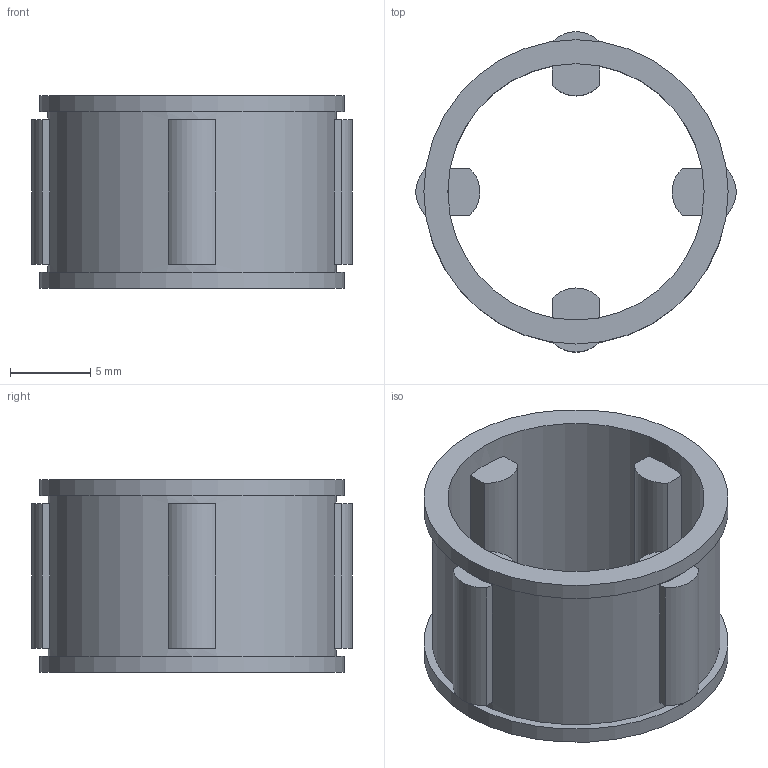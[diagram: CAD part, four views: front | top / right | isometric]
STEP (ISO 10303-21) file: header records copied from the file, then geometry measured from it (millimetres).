
FILE_DESCRIPTION(/* description */ (''),/* implementation_level */ '2;1');
FILE_NAME(/* name */ '306041 FE 420 Z.stp',/* time_stamp */ '2016-11-03T09:55:09+01:00',/* author */ (''),/* organization */ (''),/* preprocessor_version */ 'ST-DEVELOPER v15',/* originating_system */ 'SIEMENS PLM Software NX 8.5',/* authorisation */ '');
FILE_SCHEMA (('CONFIG_CONTROL_DESIGN'));
Length unit declared in the file: millimetre
Products named in the file (1): ATE0000080_01
Bounding box: 20 x 20 x 12 mm (x, y, z)
Volume: 974.1 mm3; surface area: 1719.3 mm2
Topology: 1 solids, 1 shells, 48 faces, 114 edges, 76 vertices
Faces by surface type: plane 36, cylinder 12
Full cylindrical faces by diameter (mm): 16 x1, 18 x1, 19 x2
Entity records: 1420 total; most frequent: DIRECTION 242, CARTESIAN_POINT 225, ORIENTED_EDGE 208, EDGE_CURVE 104, AXIS2_PLACEMENT_3D 89, VERTEX_POINT 72, LINE 64, VECTOR 64
